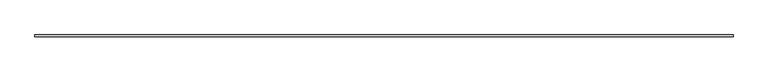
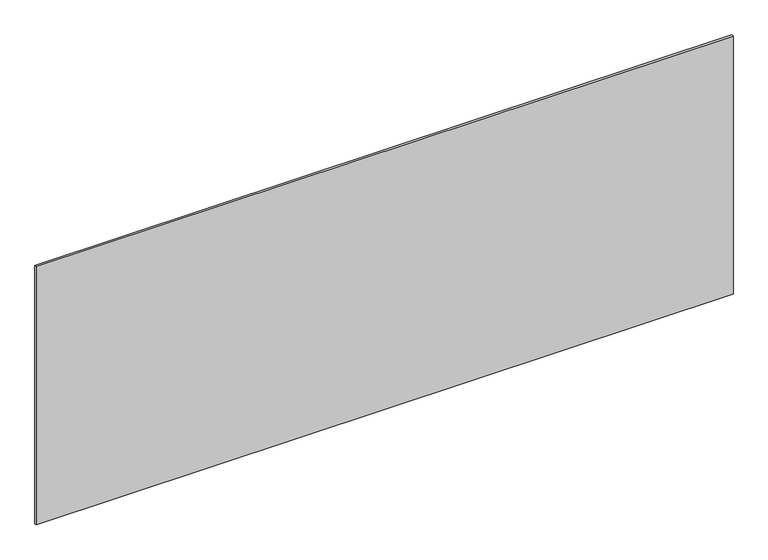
"""IFC4 building model written with IfcOpenShell, lengths in millimetres: plate geometry, システム パネル : 標準."""

from ifc_helpers import new_model, si_unit, origin, origin_with_axes, place, context, project, spatial, polyline, outline, extrude, source, transform, mapped, element, save


def plate_8eeb7153(model_context):
    return source(origin(), model_context, "Body", "SweptSolid", [
        extrude(outline(polyline([(1697.5, -5.0), (-1697.5, -5.0), (-1697.5, 5.0), (1697.5, 5.0), (1697.5, -5.0)])), origin_with_axes(), (0.0, 0.0, 1.0), 1330.1743306),
    ])


if __name__ == "__main__":
    model = new_model("IFC4")
    model_context = context("Model", 3, world=origin())
    ifc_project = project(units=[si_unit("LENGTHUNIT", "METRE", prefix="MILLI")], contexts=[model_context])
    site = spatial("IfcSite", under=ifc_project)
    building = spatial("IfcBuilding", under=site)
    placement = place(None, origin())
    plate_shape = plate_8eeb7153(model_context)
    element("IfcPlate", 1, ObjectType="システム パネル : 標準", at=placement, inside=building, context=model_context, shape_type="MappedRepresentation", body=[
        mapped(plate_shape, transform((0.0, 0.0, 0.0), x_axis=(1.0, 0.0, 0.0), y_axis=(0.0, 1.0, 0.0), z_axis=(0.0, 0.0, 1.0))),
    ])
    save(model, "model.ifc")
